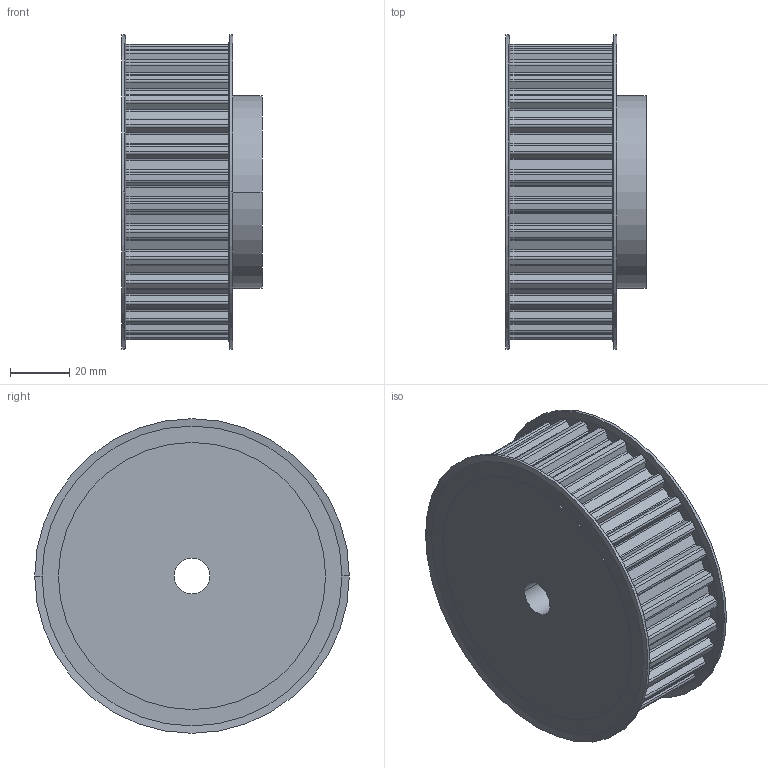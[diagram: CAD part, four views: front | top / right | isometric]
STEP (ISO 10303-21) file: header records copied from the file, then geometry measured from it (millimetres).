
FILE_DESCRIPTION( ( '' ), '1' );
FILE_NAME( 'C:/Users/Stangenbergd/Documents/CAD_Step/1/16443200.stp', '2021-10-19T08:57:42', ( '' ), ( '' ), ' ', ' ', ' ' );
FILE_SCHEMA( ( 'CONFIG_CONTROL_DESIGN' ) );
Length unit declared in the file: millimetre
Products named in the file (1): 1
Bounding box: 47.2 x 106 x 106 mm (x, y, z)
Volume: 299713.6 mm3; surface area: 40520.4 mm2
Topology: 1 solids, 1 shells, 283 faces, 820 edges, 544 vertices
Faces by surface type: cylinder 172, plane 103, cone 8
Entity records: 9510 total; most frequent: DIRECTION 1740, CARTESIAN_POINT 1648, ORIENTED_EDGE 1640, EDGE_CURVE 820, AXIS2_PLACEMENT_3D 636, VERTEX_POINT 544, LINE 468, VECTOR 468
